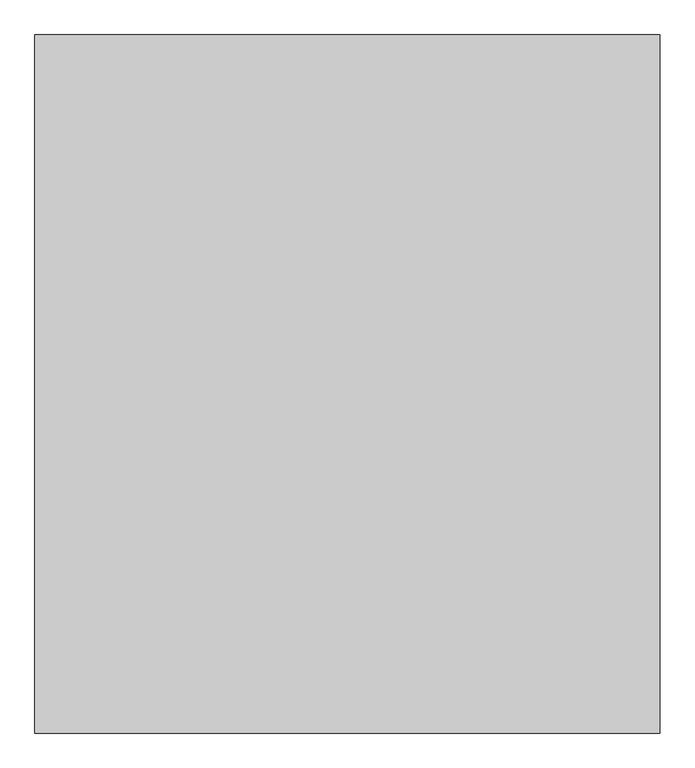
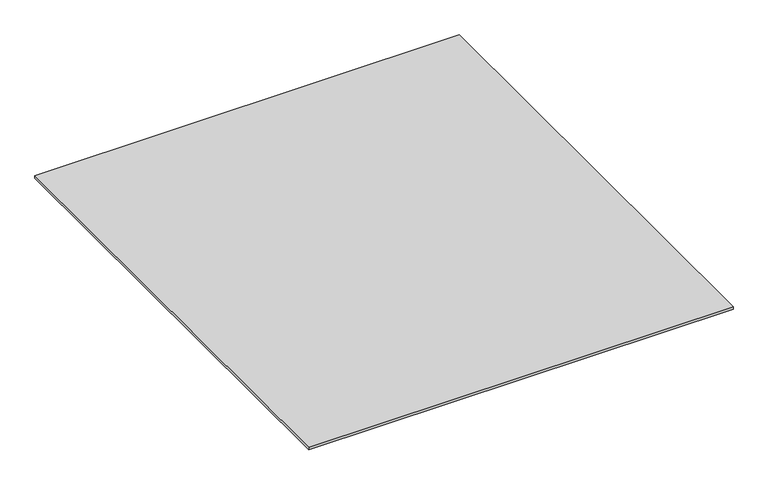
"""IFC4 building model written with IfcOpenShell, lengths in millimetres: proxy geometry, Фиброцементная плита LATONIT окрашенная : 10 мм."""

from ifc_helpers import new_model, si_unit, frame, origin, place, context, project, spatial, polyline, outline, extrude, source, transform, mapped, element, save


def generic_models_d225eb16(model_context):
    return source(origin(), model_context, "Body", "SweptSolid", [
        extrude(outline(polyline([(1550.0, 1730.0), (1550.0, 0.0), (0.0, 0.0), (0.0, 1730.0), (1550.0, 1730.0)])), frame((0.0, 0.0, 240.0), z_axis=(0.0, 0.0, 1.0), x_axis=(1.0, 0.0, 0.0)), (0.0, 0.0, 1.0), 10.0),
    ])


if __name__ == "__main__":
    model = new_model("IFC4")
    model_context = context("Model", 3, world=origin())
    ifc_project = project(units=[si_unit("LENGTHUNIT", "METRE", prefix="MILLI")], contexts=[model_context])
    site = spatial("IfcSite", under=ifc_project)
    building = spatial("IfcBuilding", under=site)
    placement = place(None, origin())
    generic_models_shape = generic_models_d225eb16(model_context)
    element("IfcBuildingElementProxy", 1, Name="Фиброцементная плита LATONIT окрашенная : 10 мм", ObjectType="Фиброцементная плита LATONIT окрашенная : 10 мм", at=placement, inside=building, context=model_context, shape_type="MappedRepresentation", body=[
        mapped(generic_models_shape, transform((0.0, 0.0, 0.0), x_axis=(1.0, 0.0, 0.0), y_axis=(0.0, 1.0, 0.0), z_axis=(0.0, 0.0, 1.0))),
    ])
    save(model, "model.ifc")
